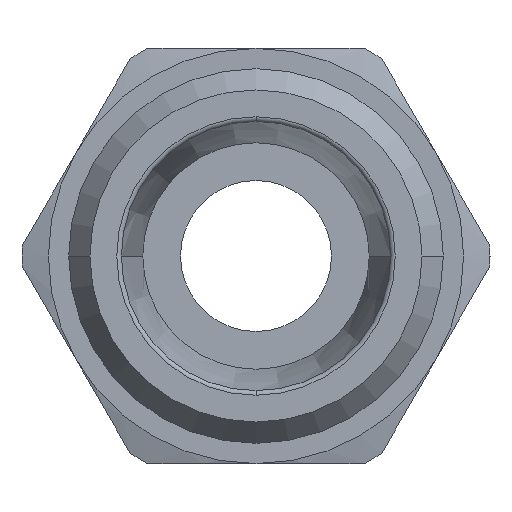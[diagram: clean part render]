
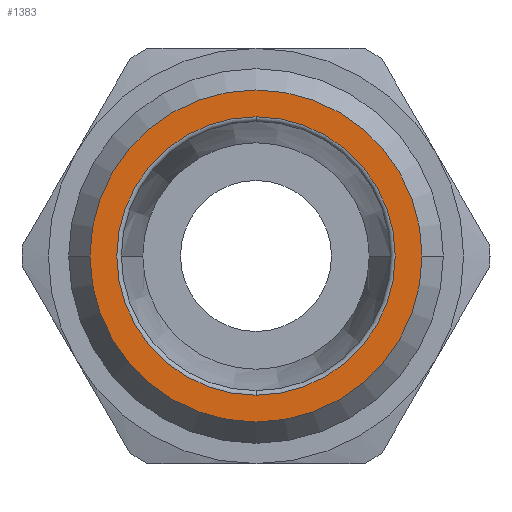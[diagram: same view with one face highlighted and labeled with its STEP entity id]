
A CAD part, left-side view. The second image highlights one B-rep face of the part: STEP entity #1383.
In plain terms, the highlighted planar face has unit normal (-1, 0, 0) as drawn and (0, 0, 1) by its records, which use the part's own axes.
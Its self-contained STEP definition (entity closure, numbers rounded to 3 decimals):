
#808=CARTESIAN_POINT('',(0.,-8.8,17.2));
#809=VERTEX_POINT('',#808);
#816=CARTESIAN_POINT('',(0.,8.8,17.2));
#817=VERTEX_POINT('',#816);
#818=CARTESIAN_POINT('',(0.,0.,17.2));
#819=DIRECTION('',(0.0,0.0,-1.0));
#820=DIRECTION('',(0.0,-1.0,0.0));
#821=AXIS2_PLACEMENT_3D('',#818,#819,#820);
#822=CIRCLE('',#821,8.8);
#823=EDGE_CURVE('',#809,#817,#822,.T.);
#881=CARTESIAN_POINT('',(7.377,0.,17.2));
#882=VERTEX_POINT('',#881);
#900=CARTESIAN_POINT('',(-7.377,0.,17.2));
#901=VERTEX_POINT('',#900);
#909=CARTESIAN_POINT('',(0.,-7.377,17.2));
#910=VERTEX_POINT('',#909);
#911=CARTESIAN_POINT('',(0.,0.,17.2));
#912=DIRECTION('',(0.0,0.0,1.0));
#913=DIRECTION('',(0.0,1.0,0.0));
#914=AXIS2_PLACEMENT_3D('',#911,#912,#913);
#915=CIRCLE('',#914,7.377);
#916=EDGE_CURVE('',#901,#910,#915,.T.);
#918=CARTESIAN_POINT('',(0.,0.,17.2));
#919=DIRECTION('',(0.0,0.0,1.0));
#920=DIRECTION('',(0.0,1.0,0.0));
#921=AXIS2_PLACEMENT_3D('',#918,#919,#920);
#922=CIRCLE('',#921,7.377);
#923=EDGE_CURVE('',#910,#882,#922,.T.);
#1344=CARTESIAN_POINT('',(0.,0.,17.2));
#1345=DIRECTION('',(0.0,0.0,1.0));
#1346=DIRECTION('',(0.0,1.0,0.0));
#1347=AXIS2_PLACEMENT_3D('',#1344,#1345,#1346);
#1348=CIRCLE('',#1347,7.377);
#1349=EDGE_CURVE('',#882,#901,#1348,.T.);
#1363=CARTESIAN_POINT('',(0.,-7.988,17.2));
#1364=DIRECTION('',(0.0,0.0,1.0));
#1365=DIRECTION('',(-1.0,0.0,0.0));
#1366=AXIS2_PLACEMENT_3D('',#1363,#1364,#1365);
#1367=PLANE('',#1366);
#1368=ORIENTED_EDGE('',*,*,#823,.F.);
#1369=CARTESIAN_POINT('',(0.,0.,17.2));
#1370=DIRECTION('',(0.0,0.0,-1.0));
#1371=DIRECTION('',(0.0,-1.0,0.0));
#1372=AXIS2_PLACEMENT_3D('',#1369,#1370,#1371);
#1373=CIRCLE('',#1372,8.8);
#1374=EDGE_CURVE('',#817,#809,#1373,.T.);
#1375=ORIENTED_EDGE('',*,*,#1374,.F.);
#1376=EDGE_LOOP('',(#1368,#1375));
#1377=FACE_OUTER_BOUND('',#1376,.T.);
#1378=ORIENTED_EDGE('',*,*,#923,.F.);
#1379=ORIENTED_EDGE('',*,*,#916,.F.);
#1380=ORIENTED_EDGE('',*,*,#1349,.F.);
#1381=EDGE_LOOP('',(#1378,#1379,#1380));
#1382=FACE_BOUND('',#1381,.T.);
#1383=ADVANCED_FACE('',(#1377,#1382),#1367,.T.);
